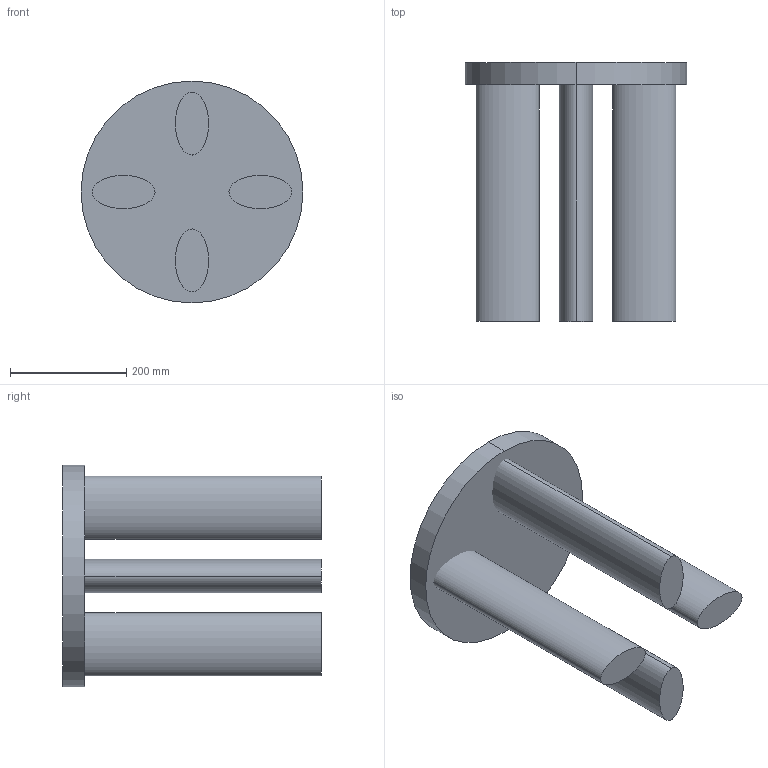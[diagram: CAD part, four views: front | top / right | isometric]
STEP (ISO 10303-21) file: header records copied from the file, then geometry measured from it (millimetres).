
FILE_DESCRIPTION (( 'STEP AP203' ), '1' );
FILE_NAME ('Matter Made Orbit Stool.STEP', '2022-11-02T19:45:36', ( '' ), ( '' ), 'SwSTEP 2.0', 'SolidWorks 2021', '' );
FILE_SCHEMA (( 'CONFIG_CONTROL_DESIGN' ));
Length unit declared in the file: millimetre
Products named in the file (1): Matter Made Orbit Stool
Bounding box: 381 x 444.5 x 381 mm (x, y, z)
Volume: 12282390.5 mm3; surface area: 747376.2 mm2
Topology: 5 solids, 5 shells, 20 faces, 30 edges, 20 vertices
Faces by surface type: plane 10, bspline 8, cylinder 2
Entity records: 531 total; most frequent: CARTESIAN_POINT 175, ORIENTED_EDGE 60, DIRECTION 44, EDGE_CURVE 30, FACE_OUTER_BOUND 20, ADVANCED_FACE 20, EDGE_LOOP 20, VERTEX_POINT 20
